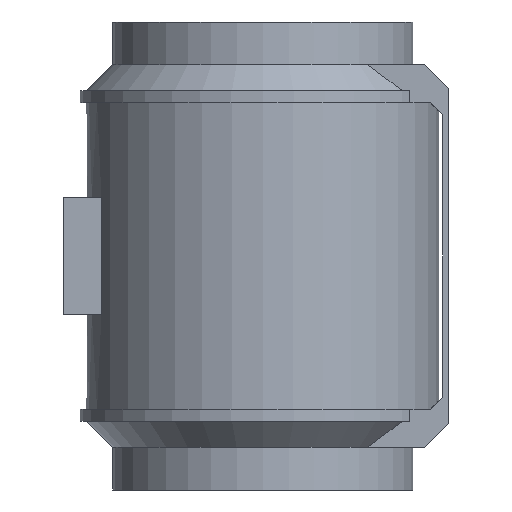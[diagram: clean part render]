
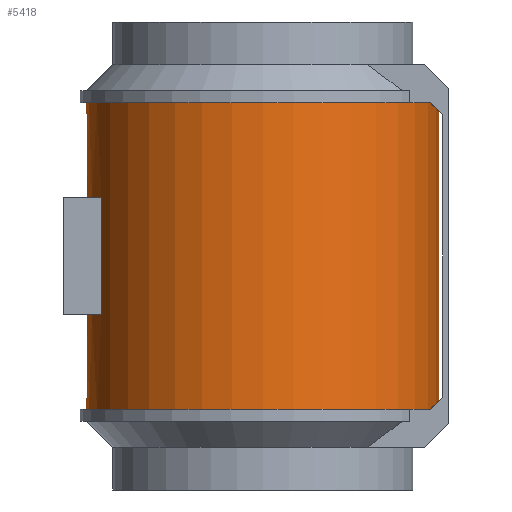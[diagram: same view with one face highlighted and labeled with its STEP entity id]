
A CAD part, front view. The second image highlights one B-rep face of the part: STEP entity #5418.
In plain terms, the highlighted cylindrical face has radius 145 mm (diameter 290 mm), a full revolution.
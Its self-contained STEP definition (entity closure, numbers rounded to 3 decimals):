
#149=FACE_BOUND('',#1000,.T.);
#207=CYLINDRICAL_SURFACE('',#5758,145.);
#501=CIRCLE('',#5750,145.);
#502=CIRCLE('',#5753,145.);
#505=CIRCLE('',#5759,145.);
#506=CIRCLE('',#5760,145.);
#507=CIRCLE('',#5761,145.);
#508=CIRCLE('',#5762,145.);
#685=FACE_OUTER_BOUND('',#999,.T.);
#999=EDGE_LOOP('',(#3671,#3672,#3673,#3674,#3675,#3676));
#1000=EDGE_LOOP('',(#3677,#3678,#3679,#3680));
#1364=LINE('',#7636,#1872);
#1370=LINE('',#7650,#1878);
#1375=LINE('',#7670,#1883);
#1872=VECTOR('',#6210,10.);
#1878=VECTOR('',#6222,10.);
#1883=VECTOR('',#6245,145.);
#2380=VERTEX_POINT('',#7634);
#2381=VERTEX_POINT('',#7635);
#2384=VERTEX_POINT('',#7643);
#2386=VERTEX_POINT('',#7649);
#2390=VERTEX_POINT('',#7665);
#2391=VERTEX_POINT('',#7666);
#2392=VERTEX_POINT('',#7669);
#2393=VERTEX_POINT('',#7671);
#2883=EDGE_CURVE('',#2380,#2381,#1364,.T.);
#2887=EDGE_CURVE('',#2381,#2384,#501,.T.);
#2890=EDGE_CURVE('',#2384,#2386,#1370,.T.);
#2893=EDGE_CURVE('',#2386,#2380,#502,.T.);
#2898=EDGE_CURVE('',#2390,#2391,#505,.T.);
#2899=EDGE_CURVE('',#2391,#2390,#506,.T.);
#2900=EDGE_CURVE('',#2391,#2392,#1375,.T.);
#2901=EDGE_CURVE('',#2392,#2393,#507,.T.);
#2902=EDGE_CURVE('',#2393,#2392,#508,.T.);
#3671=ORIENTED_EDGE('',*,*,#2898,.F.);
#3672=ORIENTED_EDGE('',*,*,#2899,.F.);
#3673=ORIENTED_EDGE('',*,*,#2900,.T.);
#3674=ORIENTED_EDGE('',*,*,#2901,.T.);
#3675=ORIENTED_EDGE('',*,*,#2902,.T.);
#3676=ORIENTED_EDGE('',*,*,#2900,.F.);
#3677=ORIENTED_EDGE('',*,*,#2890,.T.);
#3678=ORIENTED_EDGE('',*,*,#2893,.T.);
#3679=ORIENTED_EDGE('',*,*,#2883,.T.);
#3680=ORIENTED_EDGE('',*,*,#2887,.T.);
#5418=ADVANCED_FACE('',(#685,#149),#207,.T.);
#5750=AXIS2_PLACEMENT_3D('',#7644,#6216,#6217);
#5753=AXIS2_PLACEMENT_3D('',#7655,#6227,#6228);
#5758=AXIS2_PLACEMENT_3D('',#7664,#6239,#6240);
#5759=AXIS2_PLACEMENT_3D('',#7667,#6241,#6242);
#5760=AXIS2_PLACEMENT_3D('',#7668,#6243,#6244);
#5761=AXIS2_PLACEMENT_3D('',#7672,#6246,#6247);
#5762=AXIS2_PLACEMENT_3D('',#7673,#6248,#6249);
#6210=DIRECTION('',(0.,0.,-1.));
#6216=DIRECTION('center_axis',(0.,0.,-1.));
#6217=DIRECTION('ref_axis',(-1.,0.,0.));
#6222=DIRECTION('',(0.,0.,1.));
#6227=DIRECTION('center_axis',(0.,0.,1.));
#6228=DIRECTION('ref_axis',(-1.,0.,0.));
#6239=DIRECTION('center_axis',(0.,0.,-1.));
#6240=DIRECTION('ref_axis',(-1.,0.,0.));
#6241=DIRECTION('center_axis',(0.,0.,-1.));
#6242=DIRECTION('ref_axis',(1.,0.,0.));
#6243=DIRECTION('center_axis',(0.,0.,-1.));
#6244=DIRECTION('ref_axis',(1.,0.,0.));
#6245=DIRECTION('',(0.,0.,1.));
#6246=DIRECTION('center_axis',(0.,0.,-1.));
#6247=DIRECTION('ref_axis',(1.,0.,0.));
#6248=DIRECTION('center_axis',(0.,0.,-1.));
#6249=DIRECTION('ref_axis',(1.,0.,0.));
#7634=CARTESIAN_POINT('',(-132.675,-58.5,48.5));
#7635=CARTESIAN_POINT('',(-132.675,-58.5,-48.5));
#7636=CARTESIAN_POINT('',(-132.675,-58.5,0.));
#7643=CARTESIAN_POINT('',(-132.675,58.5,-48.5));
#7644=CARTESIAN_POINT('Origin',(0.,0.,-48.5));
#7649=CARTESIAN_POINT('',(-132.675,58.5,48.5));
#7650=CARTESIAN_POINT('',(-132.675,58.5,0.));
#7655=CARTESIAN_POINT('Origin',(0.,0.,48.5));
#7664=CARTESIAN_POINT('Origin',(0.,0.,0.));
#7665=CARTESIAN_POINT('',(-145.,0.,-126.));
#7666=CARTESIAN_POINT('',(145.,0.,-126.));
#7667=CARTESIAN_POINT('Origin',(0.,0.,-126.));
#7668=CARTESIAN_POINT('Origin',(0.,0.,-126.));
#7669=CARTESIAN_POINT('',(145.,0.,126.));
#7670=CARTESIAN_POINT('',(145.,0.,0.));
#7671=CARTESIAN_POINT('',(-145.,0.,126.));
#7672=CARTESIAN_POINT('Origin',(0.,0.,126.));
#7673=CARTESIAN_POINT('Origin',(0.,0.,126.));
